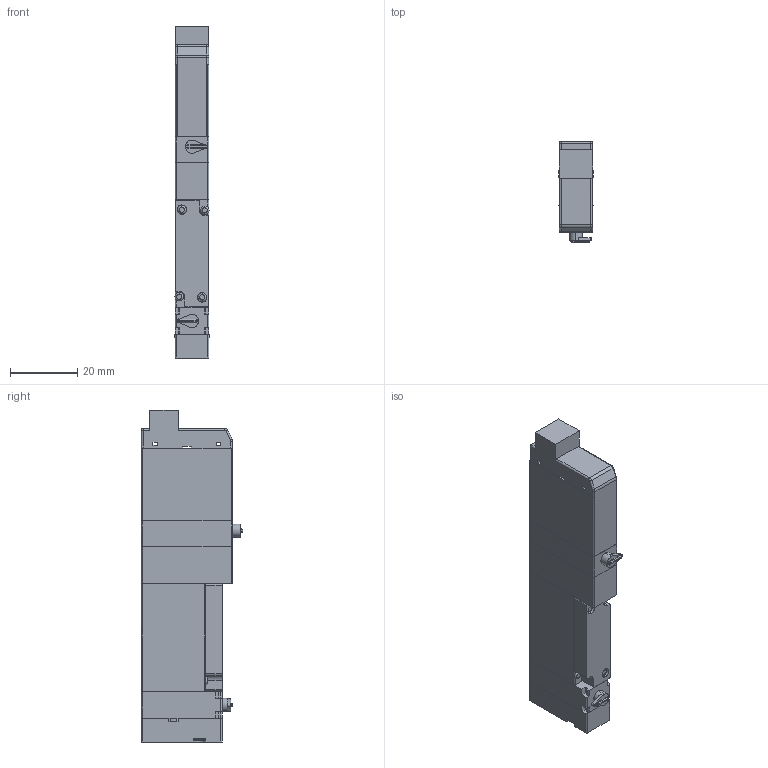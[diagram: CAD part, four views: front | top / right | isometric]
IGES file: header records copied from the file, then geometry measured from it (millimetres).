
Start section: ------------------------------------------------------------------------
Global section: file name: D:\ICADMX\tmp\trans3d_spg\CVICAD02.18204.F10T3-R-A1-PN_8824.igs; native system: spGate; preprocessor: ver12.6.6; author: Unknown; organization: Unknown; date: 200901.142544; units: millimetre
Bounding box: 10.2 x 30 x 98.5 mm (x, y, z)
Volume: 23707.4 mm3; surface area: 11077.1 mm2
Topology: 7 solids, 7 shells, 273 faces, 684 edges, 434 vertices
Faces by surface type: bspline 273
